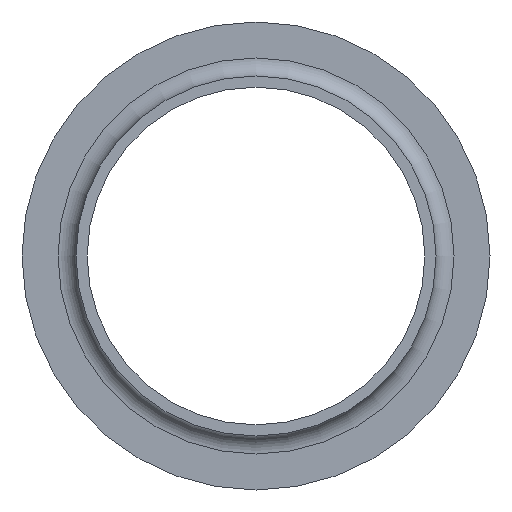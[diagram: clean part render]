
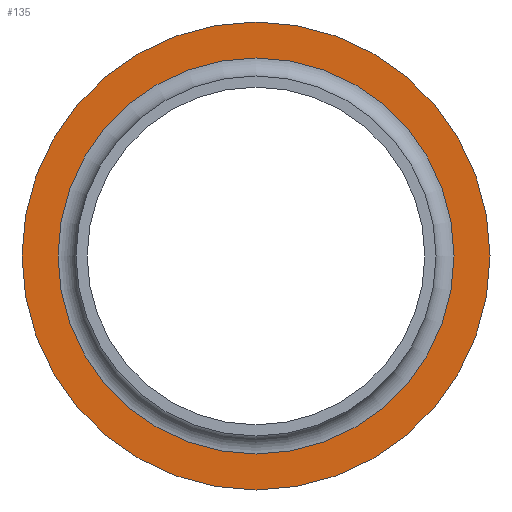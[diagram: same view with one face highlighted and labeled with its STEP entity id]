
A CAD part, left-side view. The second image highlights one B-rep face of the part: STEP entity #135.
In plain terms, the highlighted planar face has unit normal (-1, 0, 0).
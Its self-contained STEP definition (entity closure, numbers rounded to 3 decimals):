
#101=CARTESIAN_POINT('',(64.0,110.0,0.0));
#102=VERTEX_POINT('',#101);
#103=CARTESIAN_POINT('',(64.,0.,0.0));
#104=DIRECTION('',(1.0,0.0,0.0));
#105=DIRECTION('',(0.0,1.0,0.0));
#106=AXIS2_PLACEMENT_3D('',#103,#104,#105);
#107=CIRCLE('',#106,110.);
#108=EDGE_CURVE('',#102,#102,#107,.T.);
#116=CARTESIAN_POINT('',(64.0,120.0,0.0));
#117=DIRECTION('',(-1.0,0.0,0.0));
#118=DIRECTION('',(0.0,0.0,1.0));
#119=AXIS2_PLACEMENT_3D('',#116,#117,#118);
#120=PLANE('',#119);
#121=CARTESIAN_POINT('',(64.0,130.0,0.0));
#122=VERTEX_POINT('',#121);
#123=CARTESIAN_POINT('',(64.,0.,0.0));
#124=DIRECTION('',(1.0,0.0,0.0));
#125=DIRECTION('',(0.0,1.0,0.0));
#126=AXIS2_PLACEMENT_3D('',#123,#124,#125);
#127=CIRCLE('',#126,130.);
#128=EDGE_CURVE('',#122,#122,#127,.T.);
#129=ORIENTED_EDGE('',*,*,#128,.F.);
#130=EDGE_LOOP('',(#129));
#131=FACE_OUTER_BOUND('',#130,.T.);
#132=ORIENTED_EDGE('',*,*,#108,.T.);
#133=EDGE_LOOP('',(#132));
#134=FACE_BOUND('',#133,.T.);
#135=ADVANCED_FACE('',(#131,#134),#120,.T.);
